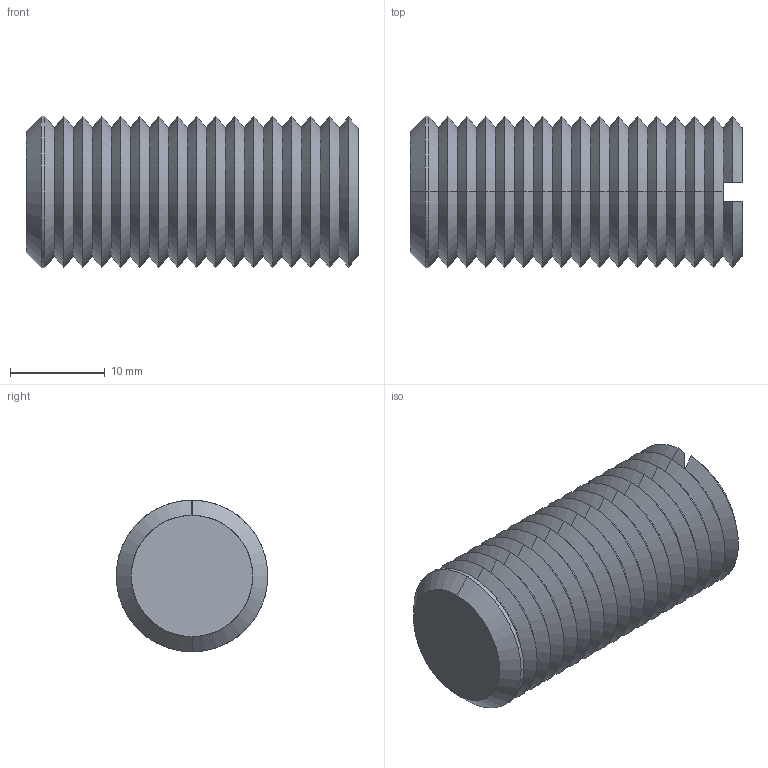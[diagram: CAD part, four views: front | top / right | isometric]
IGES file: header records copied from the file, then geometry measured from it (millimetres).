
Start section: SolidWorks IGES file using analytic representation for surfaces
Global section: file name: C:\Documents and Settings\IANO\Desktop\Temp File\Process pending\EXISTING\34300_v2\34300_v2_20170622_IGES\34300.W0161.igs; native system: SolidWorks 2009; preprocessor: SolidWorks 2009; author: IANO; date: 170622.094347; units: millimetre
Bounding box: 35 x 16 x 16 mm (x, y, z)
Surface area: 2886.8 mm2 (no closed solid volume)
Topology: 0 solids, 0 shells, 76 faces, 368 edges, 368 vertices
Faces by surface type: revolution 70, bspline 6
